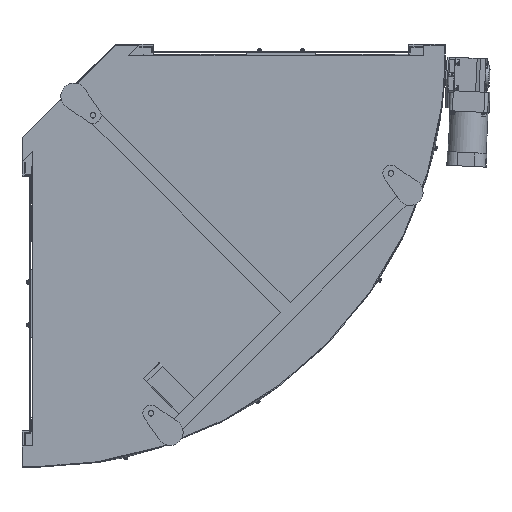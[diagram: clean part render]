
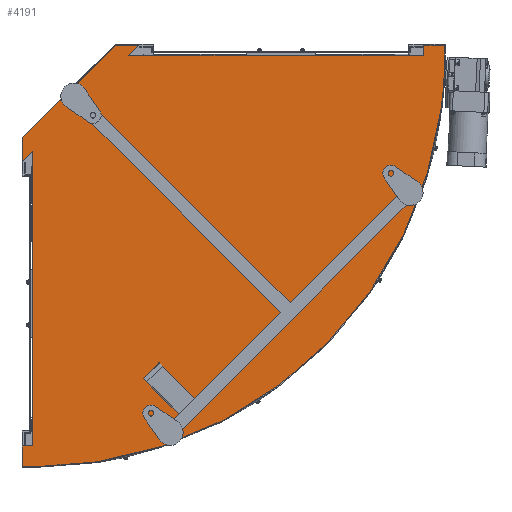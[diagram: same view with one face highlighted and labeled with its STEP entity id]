
A CAD part, front view. The second image highlights one B-rep face of the part: STEP entity #4191.
In plain terms, the highlighted planar face has unit normal (0, -1, 0).
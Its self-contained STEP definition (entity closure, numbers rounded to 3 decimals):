
#72 = DIRECTION ( 'NONE',  ( 0., 1., 0. ) ) ;
#606 = VERTEX_POINT ( 'NONE', #9694 ) ;
#847 = VERTEX_POINT ( 'NONE', #9240 ) ;
#944 = CARTESIAN_POINT ( 'NONE',  ( 0., -157.5, -912.5 ) ) ;
#1224 = VERTEX_POINT ( 'NONE', #12716 ) ;
#1758 = CARTESIAN_POINT ( 'NONE',  ( -23.4, -157.5, -193.163 ) ) ;
#1782 = CARTESIAN_POINT ( 'NONE',  ( 961.5, -157.5, 0. ) ) ;
#1956 = VERTEX_POINT ( 'NONE', #18390 ) ;
#1969 = DIRECTION ( 'NONE',  ( -1., 0., 0. ) ) ;
#2172 = CARTESIAN_POINT ( 'NONE',  ( -23.4, -157.5, -912.5 ) ) ;
#2281 = ORIENTED_EDGE ( 'NONE', *, *, #15335, .T. ) ;
#2302 = EDGE_CURVE ( 'NONE', #25422, #6918, #18523, .T. ) ;
#2304 = DIRECTION ( 'NONE',  ( 0., 0., 1. ) ) ;
#2956 = EDGE_CURVE ( 'NONE', #1224, #14461, #16113, .T. ) ;
#3249 = CARTESIAN_POINT ( 'NONE',  ( -23.4, -157.5, -247.5 ) ) ;
#3336 = CARTESIAN_POINT ( 'NONE',  ( -23.4, -157.5, -912.5 ) ) ;
#3856 = LINE ( 'NONE', #27273, #7429 ) ;
#3971 = VECTOR ( 'NONE', #9450, 1000. ) ;
#4191 = ADVANCED_FACE ( 'NONE', ( #28761 ), #32859, .F. ) ;
#4227 = VECTOR ( 'NONE', #16486, 1000. ) ;
#4379 = EDGE_LOOP ( 'NONE', ( #17279, #32236, #21711, #11452, #18534, #32762, #26130, #22534, #8415, #29848, #6635, #13046, #16916, #26576, #15744, #2281 ) ) ;
#4579 = CARTESIAN_POINT ( 'NONE',  ( 193.163, -157.5, 23.4 ) ) ;
#4689 = VECTOR ( 'NONE', #31870, 1000. ) ;
#4832 = CARTESIAN_POINT ( 'NONE',  ( 0., -157.5, -912.5 ) ) ;
#5444 = CARTESIAN_POINT ( 'NONE',  ( 961.5, -157.5, 23.4 ) ) ;
#5479 = LINE ( 'NONE', #11770, #4689 ) ;
#5575 = CARTESIAN_POINT ( 'NONE',  ( 953.413, -157.5, -124.442 ) ) ;
#5883 = AXIS2_PLACEMENT_3D ( 'NONE', #17612, #72, #18030 ) ;
#6038 = VECTOR ( 'NONE', #2304, 1000. ) ;
#6433 = LINE ( 'NONE', #24855, #6038 ) ;
#6635 = ORIENTED_EDGE ( 'NONE', *, *, #19112, .F. ) ;
#6862 = CARTESIAN_POINT ( 'NONE',  ( 0., -157.5, -912.5 ) ) ;
#6918 = VERTEX_POINT ( 'NONE', #29645 ) ;
#7092 = VERTEX_POINT ( 'NONE', #7712 ) ;
#7429 = VECTOR ( 'NONE', #1969, 1000. ) ;
#7591 = EDGE_CURVE ( 'NONE', #32215, #9522, #28170, .T. ) ;
#7712 = CARTESIAN_POINT ( 'NONE',  ( -23.4, -157.5, -961.5 ) ) ;
#7876 = VECTOR ( 'NONE', #14589, 1000. ) ;
#7974 = LINE ( 'NONE', #1782, #3971 ) ;
#8415 = ORIENTED_EDGE ( 'NONE', *, *, #26355, .T. ) ;
#8727 = VERTEX_POINT ( 'NONE', #20188 ) ;
#9063 = AXIS2_PLACEMENT_3D ( 'NONE', #20041, #12426, #24737 ) ;
#9078 = EDGE_CURVE ( 'NONE', #32215, #847, #9804, .T. ) ;
#9240 = CARTESIAN_POINT ( 'NONE',  ( 0., -157.5, -224.1 ) ) ;
#9308 = LINE ( 'NONE', #3336, #17983 ) ;
#9435 = LINE ( 'NONE', #21466, #4227 ) ;
#9450 = DIRECTION ( 'NONE',  ( 0., 0., 1. ) ) ;
#9522 = VERTEX_POINT ( 'NONE', #2172 ) ;
#9629 = CARTESIAN_POINT ( 'NONE',  ( 0., -157.5, -961.5 ) ) ;
#9694 = CARTESIAN_POINT ( 'NONE',  ( 224.1, -157.5, 0. ) ) ;
#9804 = LINE ( 'NONE', #4832, #16553 ) ;
#10803 = CARTESIAN_POINT ( 'NONE',  ( 0., -157.5, 0. ) ) ;
#10913 = DIRECTION ( 'NONE',  ( 0., 0., 1. ) ) ;
#11452 = ORIENTED_EDGE ( 'NONE', *, *, #25722, .T. ) ;
#11770 = CARTESIAN_POINT ( 'NONE',  ( -23.4, -157.5, -961.5 ) ) ;
#12426 = DIRECTION ( 'NONE',  ( 0., -1., 0. ) ) ;
#12503 = CIRCLE ( 'NONE', #29509, 961.5 ) ;
#12716 = CARTESIAN_POINT ( 'NONE',  ( 193.163, -157.5, 23.4 ) ) ;
#13046 = ORIENTED_EDGE ( 'NONE', *, *, #31063, .T. ) ;
#14461 = VERTEX_POINT ( 'NONE', #16921 ) ;
#14488 = EDGE_CURVE ( 'NONE', #23087, #1224, #24323, .T. ) ;
#14589 = DIRECTION ( 'NONE',  ( -1., 0., 0. ) ) ;
#15146 = VECTOR ( 'NONE', #29985, 1000. ) ;
#15335 = EDGE_CURVE ( 'NONE', #1956, #847, #9435, .T. ) ;
#15744 = ORIENTED_EDGE ( 'NONE', *, *, #28845, .T. ) ;
#16113 = LINE ( 'NONE', #4579, #30448 ) ;
#16152 = DIRECTION ( 'NONE',  ( 0.707, 0., 0.707 ) ) ;
#16486 = DIRECTION ( 'NONE',  ( 0.707, 0., 0.707 ) ) ;
#16553 = VECTOR ( 'NONE', #22938, 1000. ) ;
#16916 = ORIENTED_EDGE ( 'NONE', *, *, #14488, .T. ) ;
#16921 = CARTESIAN_POINT ( 'NONE',  ( -23.4, -157.5, -193.163 ) ) ;
#17135 = DIRECTION ( 'NONE',  ( -1., 0., 0. ) ) ;
#17163 = EDGE_CURVE ( 'NONE', #9522, #7092, #9308, .T. ) ;
#17227 = EDGE_CURVE ( 'NONE', #29139, #25422, #12503, .T. ) ;
#17279 = ORIENTED_EDGE ( 'NONE', *, *, #9078, .F. ) ;
#17334 = CARTESIAN_POINT ( 'NONE',  ( 247.5, -157.5, 23.4 ) ) ;
#17439 = CARTESIAN_POINT ( 'NONE',  ( 961.5, -157.5, 5. ) ) ;
#17564 = VERTEX_POINT ( 'NONE', #17439 ) ;
#17612 = CARTESIAN_POINT ( 'NONE',  ( 0., -157.5, 0. ) ) ;
#17972 = LINE ( 'NONE', #18840, #23961 ) ;
#17983 = VECTOR ( 'NONE', #30812, 1000. ) ;
#18030 = DIRECTION ( 'NONE',  ( 0., 0., 1. ) ) ;
#18390 = CARTESIAN_POINT ( 'NONE',  ( -23.4, -157.5, -247.5 ) ) ;
#18523 = CIRCLE ( 'NONE', #9063, 961.5 ) ;
#18534 = ORIENTED_EDGE ( 'NONE', *, *, #17227, .T. ) ;
#18840 = CARTESIAN_POINT ( 'NONE',  ( 912.5, -157.5, 23.4 ) ) ;
#19065 = DIRECTION ( 'NONE',  ( 0., 0., -1. ) ) ;
#19112 = EDGE_CURVE ( 'NONE', #606, #8727, #21500, .T. ) ;
#19461 = CARTESIAN_POINT ( 'NONE',  ( 247.5, -157.5, 23.4 ) ) ;
#20041 = CARTESIAN_POINT ( 'NONE',  ( 0., -157.5, 0. ) ) ;
#20188 = CARTESIAN_POINT ( 'NONE',  ( 912.5, -157.5, 0. ) ) ;
#21466 = CARTESIAN_POINT ( 'NONE',  ( -23.4, -157.5, -247.5 ) ) ;
#21500 = LINE ( 'NONE', #32562, #15146 ) ;
#21711 = ORIENTED_EDGE ( 'NONE', *, *, #17163, .T. ) ;
#22534 = ORIENTED_EDGE ( 'NONE', *, *, #31884, .T. ) ;
#22727 = VECTOR ( 'NONE', #17135, 1000. ) ;
#22938 = DIRECTION ( 'NONE',  ( 0., 0., 1. ) ) ;
#23001 = VECTOR ( 'NONE', #16152, 1000. ) ;
#23087 = VERTEX_POINT ( 'NONE', #17334 ) ;
#23961 = VECTOR ( 'NONE', #19065, 1000. ) ;
#24251 = VERTEX_POINT ( 'NONE', #26179 ) ;
#24323 = LINE ( 'NONE', #19461, #22727 ) ;
#24620 = LINE ( 'NONE', #3249, #23001 ) ;
#24737 = DIRECTION ( 'NONE',  ( 0., 0., 1. ) ) ;
#24855 = CARTESIAN_POINT ( 'NONE',  ( 961.5, -157.5, 0. ) ) ;
#25422 = VERTEX_POINT ( 'NONE', #5575 ) ;
#25588 = VECTOR ( 'NONE', #27184, 1000. ) ;
#25722 = EDGE_CURVE ( 'NONE', #7092, #29139, #5479, .T. ) ;
#26130 = ORIENTED_EDGE ( 'NONE', *, *, #30368, .T. ) ;
#26161 = DIRECTION ( 'NONE',  ( 0., -1., 0. ) ) ;
#26179 = CARTESIAN_POINT ( 'NONE',  ( 912.5, -157.5, 23.4 ) ) ;
#26355 = EDGE_CURVE ( 'NONE', #27934, #24251, #3856, .T. ) ;
#26576 = ORIENTED_EDGE ( 'NONE', *, *, #2956, .T. ) ;
#27184 = DIRECTION ( 'NONE',  ( 0., 0., -1. ) ) ;
#27273 = CARTESIAN_POINT ( 'NONE',  ( 961.5, -157.5, 23.4 ) ) ;
#27934 = VERTEX_POINT ( 'NONE', #5444 ) ;
#28170 = LINE ( 'NONE', #6862, #7876 ) ;
#28729 = EDGE_CURVE ( 'NONE', #24251, #8727, #17972, .T. ) ;
#28761 = FACE_OUTER_BOUND ( 'NONE', #4379, .T. ) ;
#28845 = EDGE_CURVE ( 'NONE', #14461, #1956, #31144, .T. ) ;
#29139 = VERTEX_POINT ( 'NONE', #9629 ) ;
#29509 = AXIS2_PLACEMENT_3D ( 'NONE', #10803, #26161, #10913 ) ;
#29621 = DIRECTION ( 'NONE',  ( -0.707, 0., -0.707 ) ) ;
#29645 = CARTESIAN_POINT ( 'NONE',  ( 961.5, -157.5, 0. ) ) ;
#29848 = ORIENTED_EDGE ( 'NONE', *, *, #28729, .T. ) ;
#29985 = DIRECTION ( 'NONE',  ( 1., 0., 0. ) ) ;
#30368 = EDGE_CURVE ( 'NONE', #6918, #17564, #7974, .T. ) ;
#30448 = VECTOR ( 'NONE', #29621, 1000. ) ;
#30812 = DIRECTION ( 'NONE',  ( 0., 0., -1. ) ) ;
#31063 = EDGE_CURVE ( 'NONE', #606, #23087, #24620, .T. ) ;
#31144 = LINE ( 'NONE', #1758, #25588 ) ;
#31870 = DIRECTION ( 'NONE',  ( 1., 0., 0. ) ) ;
#31884 = EDGE_CURVE ( 'NONE', #17564, #27934, #6433, .T. ) ;
#32215 = VERTEX_POINT ( 'NONE', #944 ) ;
#32236 = ORIENTED_EDGE ( 'NONE', *, *, #7591, .T. ) ;
#32562 = CARTESIAN_POINT ( 'NONE',  ( 224.1, -157.5, 0. ) ) ;
#32762 = ORIENTED_EDGE ( 'NONE', *, *, #2302, .T. ) ;
#32859 = PLANE ( 'NONE',  #5883 ) ;
